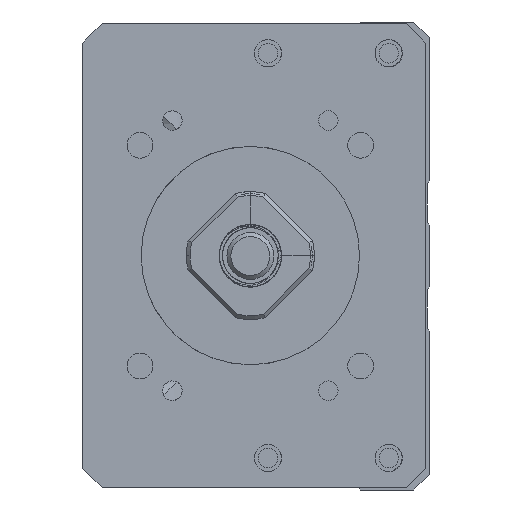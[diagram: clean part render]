
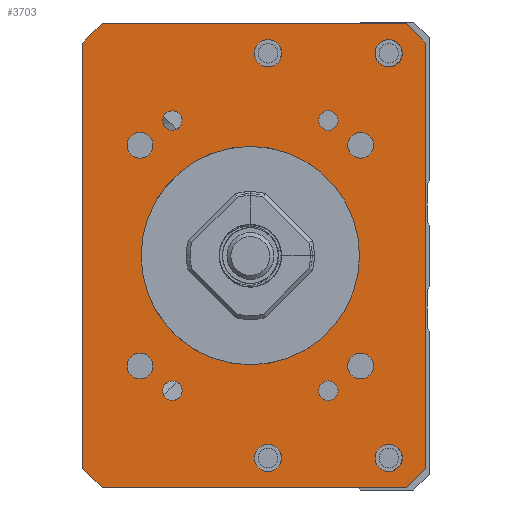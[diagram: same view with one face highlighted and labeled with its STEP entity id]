
A CAD part, left-side view. The second image highlights one B-rep face of the part: STEP entity #3703.
In plain terms, the highlighted planar face has unit normal (-1, 0, 0).
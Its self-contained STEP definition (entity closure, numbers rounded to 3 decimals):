
#461=CIRCLE('',#11602,14.);
#470=CIRCLE('',#11613,1.65);
#471=CIRCLE('',#11614,1.65);
#472=CIRCLE('',#11615,1.65);
#473=CIRCLE('',#11616,1.65);
#474=CIRCLE('',#11617,1.25);
#475=CIRCLE('',#11618,1.75);
#476=CIRCLE('',#11619,1.25);
#477=CIRCLE('',#11620,1.75);
#478=CIRCLE('',#11621,1.25);
#479=CIRCLE('',#11622,1.75);
#480=CIRCLE('',#11623,1.75);
#481=CIRCLE('',#11624,1.25);
#1027=PLANE('',#11625);
#2244=LINE('',#17484,#3098);
#2246=LINE('',#17508,#3100);
#2247=LINE('',#17510,#3101);
#2248=LINE('',#17512,#3102);
#2249=LINE('',#17514,#3103);
#2250=LINE('',#17516,#3104);
#2251=LINE('',#17518,#3105);
#2252=LINE('',#17520,#3106);
#3098=VECTOR('',#14193,1.);
#3100=VECTOR('',#14217,1.);
#3101=VECTOR('',#14218,1.);
#3102=VECTOR('',#14219,1.);
#3103=VECTOR('',#14220,1.);
#3104=VECTOR('',#14221,1.);
#3105=VECTOR('',#14222,1.);
#3106=VECTOR('',#14223,1.);
#3703=ADVANCED_FACE('',(#4378,#4379,#4380,#4381,#4382,#4383,#4384,#4385,
#4386,#4387,#4388,#4389,#4390,#4391),#1027,.F.);
#4378=FACE_BOUND('',#5183,.T.);
#4379=FACE_BOUND('',#5184,.T.);
#4380=FACE_BOUND('',#5185,.T.);
#4381=FACE_BOUND('',#5186,.T.);
#4382=FACE_BOUND('',#5187,.T.);
#4383=FACE_BOUND('',#5188,.T.);
#4384=FACE_BOUND('',#5189,.T.);
#4385=FACE_BOUND('',#5190,.T.);
#4386=FACE_BOUND('',#5191,.T.);
#4387=FACE_BOUND('',#5192,.T.);
#4388=FACE_BOUND('',#5193,.T.);
#4389=FACE_BOUND('',#5194,.T.);
#4390=FACE_BOUND('',#5195,.T.);
#4391=FACE_BOUND('',#5196,.T.);
#5183=EDGE_LOOP('',(#7562));
#5184=EDGE_LOOP('',(#7563));
#5185=EDGE_LOOP('',(#7564));
#5186=EDGE_LOOP('',(#7565));
#5187=EDGE_LOOP('',(#7566));
#5188=EDGE_LOOP('',(#7567));
#5189=EDGE_LOOP('',(#7568));
#5190=EDGE_LOOP('',(#7569));
#5191=EDGE_LOOP('',(#7570));
#5192=EDGE_LOOP('',(#7571,#7572,#7573,#7574,#7575,#7576,#7577,#7578));
#5193=EDGE_LOOP('',(#7579));
#5194=EDGE_LOOP('',(#7580));
#5195=EDGE_LOOP('',(#7581));
#5196=EDGE_LOOP('',(#7582));
#7562=ORIENTED_EDGE('',*,*,#10381,.F.);
#7563=ORIENTED_EDGE('',*,*,#10382,.F.);
#7564=ORIENTED_EDGE('',*,*,#10383,.F.);
#7565=ORIENTED_EDGE('',*,*,#10384,.F.);
#7566=ORIENTED_EDGE('',*,*,#10385,.F.);
#7567=ORIENTED_EDGE('',*,*,#10386,.T.);
#7568=ORIENTED_EDGE('',*,*,#10387,.F.);
#7569=ORIENTED_EDGE('',*,*,#10388,.F.);
#7570=ORIENTED_EDGE('',*,*,#10389,.F.);
#7571=ORIENTED_EDGE('',*,*,#10378,.T.);
#7572=ORIENTED_EDGE('',*,*,#10390,.T.);
#7573=ORIENTED_EDGE('',*,*,#10391,.F.);
#7574=ORIENTED_EDGE('',*,*,#10392,.T.);
#7575=ORIENTED_EDGE('',*,*,#10393,.F.);
#7576=ORIENTED_EDGE('',*,*,#10394,.T.);
#7577=ORIENTED_EDGE('',*,*,#10395,.T.);
#7578=ORIENTED_EDGE('',*,*,#10396,.T.);
#7579=ORIENTED_EDGE('',*,*,#10397,.F.);
#7580=ORIENTED_EDGE('',*,*,#10398,.F.);
#7581=ORIENTED_EDGE('',*,*,#10399,.F.);
#7582=ORIENTED_EDGE('',*,*,#10358,.F.);
#9038=VERTEX_POINT('',#17407);
#9058=VERTEX_POINT('',#17483);
#9059=VERTEX_POINT('',#17485);
#9061=VERTEX_POINT('',#17491);
#9062=VERTEX_POINT('',#17493);
#9063=VERTEX_POINT('',#17495);
#9064=VERTEX_POINT('',#17497);
#9065=VERTEX_POINT('',#17499);
#9066=VERTEX_POINT('',#17501);
#9067=VERTEX_POINT('',#17503);
#9068=VERTEX_POINT('',#17505);
#9069=VERTEX_POINT('',#17507);
#9070=VERTEX_POINT('',#17509);
#9071=VERTEX_POINT('',#17511);
#9072=VERTEX_POINT('',#17513);
#9073=VERTEX_POINT('',#17515);
#9074=VERTEX_POINT('',#17517);
#9075=VERTEX_POINT('',#17519);
#9076=VERTEX_POINT('',#17522);
#9077=VERTEX_POINT('',#17524);
#9078=VERTEX_POINT('',#17526);
#10358=EDGE_CURVE('',#9038,#9038,#461,.T.);
#10378=EDGE_CURVE('',#9059,#9058,#2244,.T.);
#10381=EDGE_CURVE('',#9061,#9061,#470,.T.);
#10382=EDGE_CURVE('',#9062,#9062,#471,.T.);
#10383=EDGE_CURVE('',#9063,#9063,#472,.T.);
#10384=EDGE_CURVE('',#9064,#9064,#473,.T.);
#10385=EDGE_CURVE('',#9065,#9065,#474,.T.);
#10386=EDGE_CURVE('',#9066,#9066,#475,.T.);
#10387=EDGE_CURVE('',#9067,#9067,#476,.T.);
#10388=EDGE_CURVE('',#9068,#9068,#477,.T.);
#10389=EDGE_CURVE('',#9069,#9069,#478,.T.);
#10390=EDGE_CURVE('',#9058,#9070,#2246,.T.);
#10391=EDGE_CURVE('',#9071,#9070,#2247,.T.);
#10392=EDGE_CURVE('',#9071,#9072,#2248,.T.);
#10393=EDGE_CURVE('',#9073,#9072,#2249,.T.);
#10394=EDGE_CURVE('',#9073,#9074,#2250,.T.);
#10395=EDGE_CURVE('',#9074,#9075,#2251,.T.);
#10396=EDGE_CURVE('',#9075,#9059,#2252,.T.);
#10397=EDGE_CURVE('',#9076,#9076,#479,.T.);
#10398=EDGE_CURVE('',#9077,#9077,#480,.T.);
#10399=EDGE_CURVE('',#9078,#9078,#481,.T.);
#11602=AXIS2_PLACEMENT_3D('',#17406,#14167,#14168);
#11613=AXIS2_PLACEMENT_3D('',#17490,#14199,#14200);
#11614=AXIS2_PLACEMENT_3D('',#17492,#14201,#14202);
#11615=AXIS2_PLACEMENT_3D('',#17494,#14203,#14204);
#11616=AXIS2_PLACEMENT_3D('',#17496,#14205,#14206);
#11617=AXIS2_PLACEMENT_3D('',#17498,#14207,#14208);
#11618=AXIS2_PLACEMENT_3D('',#17500,#14209,#14210);
#11619=AXIS2_PLACEMENT_3D('',#17502,#14211,#14212);
#11620=AXIS2_PLACEMENT_3D('',#17504,#14213,#14214);
#11621=AXIS2_PLACEMENT_3D('',#17506,#14215,#14216);
#11622=AXIS2_PLACEMENT_3D('',#17521,#14224,#14225);
#11623=AXIS2_PLACEMENT_3D('',#17523,#14226,#14227);
#11624=AXIS2_PLACEMENT_3D('',#17525,#14228,#14229);
#11625=AXIS2_PLACEMENT_3D('',#17527,#14230,#14231);
#14167=DIRECTION('',(-1.,0.,0.));
#14168=DIRECTION('',(0.,1.,0.));
#14193=DIRECTION('',(0.,0.,-1.));
#14199=DIRECTION('',(-1.,0.,0.));
#14200=DIRECTION('',(0.,0.,1.));
#14201=DIRECTION('',(-1.,0.,0.));
#14202=DIRECTION('',(0.,0.,1.));
#14203=DIRECTION('',(-1.,0.,0.));
#14204=DIRECTION('',(0.,0.,1.));
#14205=DIRECTION('',(-1.,0.,0.));
#14206=DIRECTION('',(0.,0.,1.));
#14207=DIRECTION('',(-1.,0.,0.));
#14208=DIRECTION('',(0.,1.,0.));
#14209=DIRECTION('',(1.,0.,0.));
#14210=DIRECTION('',(0.,0.,1.));
#14211=DIRECTION('',(-1.,0.,0.));
#14212=DIRECTION('',(0.,1.,0.));
#14213=DIRECTION('',(-1.,0.,0.));
#14214=DIRECTION('',(0.,0.,1.));
#14215=DIRECTION('',(-1.,0.,0.));
#14216=DIRECTION('',(0.,1.,0.));
#14217=DIRECTION('',(0.,-0.707,-0.707));
#14218=DIRECTION('',(0.,1.,0.));
#14219=DIRECTION('',(0.,-0.707,0.707));
#14220=DIRECTION('',(0.,0.,-1.));
#14221=DIRECTION('',(0.,0.707,0.707));
#14222=DIRECTION('',(0.,1.,0.));
#14223=DIRECTION('',(0.,0.707,-0.707));
#14224=DIRECTION('',(-1.,0.,0.));
#14225=DIRECTION('',(0.,0.,1.));
#14226=DIRECTION('',(-1.,0.,0.));
#14227=DIRECTION('',(0.,0.,1.));
#14228=DIRECTION('',(-1.,0.,0.));
#14229=DIRECTION('',(0.,1.,0.));
#14230=DIRECTION('',(1.,0.,0.));
#14231=DIRECTION('',(0.,1.,0.));
#17406=CARTESIAN_POINT('',(-211.,0.,-200.));
#17407=CARTESIAN_POINT('',(-211.,14.,-200.));
#17483=CARTESIAN_POINT('',(-211.,21.499,-227.25));
#17484=CARTESIAN_POINT('',(-211.,21.499,-170.25));
#17485=CARTESIAN_POINT('',(-211.,21.499,-172.75));
#17490=CARTESIAN_POINT('',(-211.,14.142,-185.858));
#17491=CARTESIAN_POINT('',(-211.,14.142,-184.208));
#17492=CARTESIAN_POINT('',(-211.,-14.142,-185.858));
#17493=CARTESIAN_POINT('',(-211.,-14.142,-184.208));
#17494=CARTESIAN_POINT('',(-211.,14.142,-214.142));
#17495=CARTESIAN_POINT('',(-211.,14.142,-212.492));
#17496=CARTESIAN_POINT('',(-211.,-14.142,-214.142));
#17497=CARTESIAN_POINT('',(-211.,-14.142,-212.492));
#17498=CARTESIAN_POINT('',(-211.,-10.,-217.321));
#17499=CARTESIAN_POINT('',(-211.,-8.75,-217.321));
#17500=CARTESIAN_POINT('',(-211.,-2.25,-225.936));
#17501=CARTESIAN_POINT('',(-211.,-2.25,-224.186));
#17502=CARTESIAN_POINT('',(-211.,10.,-182.679));
#17503=CARTESIAN_POINT('',(-211.,11.25,-182.679));
#17504=CARTESIAN_POINT('',(-211.,-2.25,-174.064));
#17505=CARTESIAN_POINT('',(-211.,-2.25,-172.314));
#17506=CARTESIAN_POINT('',(-211.,10.,-217.321));
#17507=CARTESIAN_POINT('',(-211.,11.25,-217.321));
#17508=CARTESIAN_POINT('',(-211.,18.999,-229.75));
#17509=CARTESIAN_POINT('',(-211.,18.999,-229.75));
#17510=CARTESIAN_POINT('',(-211.,-22.501,-229.75));
#17511=CARTESIAN_POINT('',(-211.,-20.001,-229.75));
#17512=CARTESIAN_POINT('',(-211.,-22.501,-227.25));
#17513=CARTESIAN_POINT('',(-211.,-22.501,-227.25));
#17514=CARTESIAN_POINT('',(-211.,-22.501,-170.25));
#17515=CARTESIAN_POINT('',(-211.,-22.501,-172.75));
#17516=CARTESIAN_POINT('',(-211.,-22.501,-172.75));
#17517=CARTESIAN_POINT('',(-211.,-20.001,-170.25));
#17518=CARTESIAN_POINT('',(-211.,-22.501,-170.25));
#17519=CARTESIAN_POINT('',(-211.,18.999,-170.25));
#17520=CARTESIAN_POINT('',(-211.,18.999,-170.25));
#17521=CARTESIAN_POINT('',(-211.,-17.75,-174.064));
#17522=CARTESIAN_POINT('',(-211.,-17.75,-172.314));
#17523=CARTESIAN_POINT('',(-211.,-17.75,-225.936));
#17524=CARTESIAN_POINT('',(-211.,-17.75,-224.186));
#17525=CARTESIAN_POINT('',(-211.,-10.,-182.679));
#17526=CARTESIAN_POINT('',(-211.,-8.75,-182.679));
#17527=CARTESIAN_POINT('',(-211.,-22.501,-170.25));
